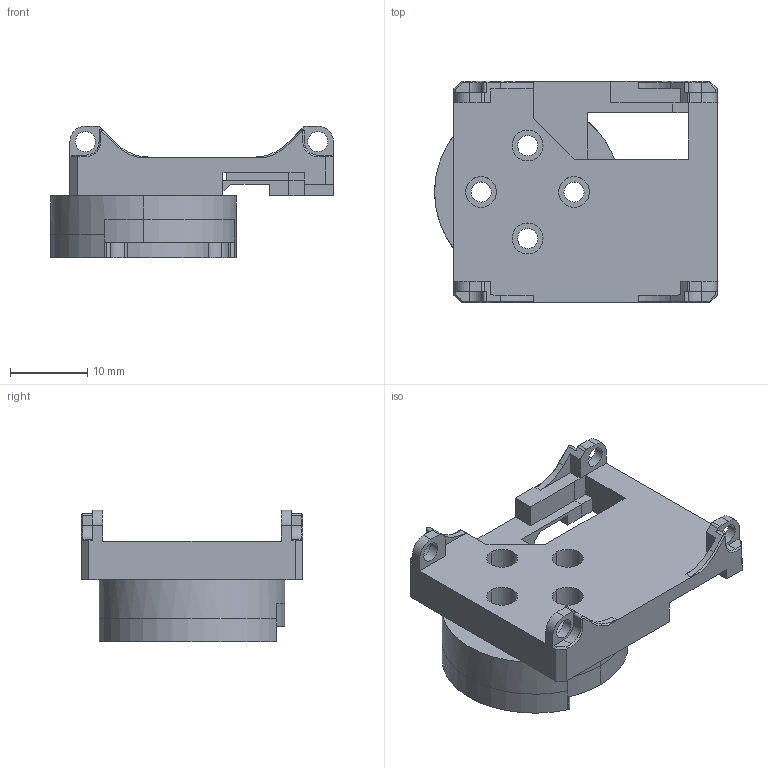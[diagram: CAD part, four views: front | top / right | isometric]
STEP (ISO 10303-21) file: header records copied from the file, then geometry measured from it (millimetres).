
FILE_DESCRIPTION (( 'STEP AP214' ), '1' );
FILE_NAME ('Thumb1.STEP', '2026-09-16T05:42:23', ( '' ), ( '' ), 'SwSTEP 2.0', 'SolidWorks 2024', '' );
FILE_SCHEMA (( 'AUTOMOTIVE_DESIGN' ));
Length unit declared in the file: millimetre
Products named in the file (2): Thumb1; 大拇指旋-走线切多-加厚.step_默认
Assembly tree (1 placements, depth 2):
  Thumb1
    大拇指旋-走线切多-加厚.step_默认
Bounding box: 36.5 x 28.6 x 17 mm (x, y, z)
Volume: 6264.7 mm3; surface area: 4038.8 mm2
Topology: 1 solids, 1 shells, 183 faces, 487 edges, 309 vertices
Faces by surface type: plane 98, cylinder 69, cone 16
Entity records: 5776 total; most frequent: CARTESIAN_POINT 1019, DIRECTION 1009, ORIENTED_EDGE 974, EDGE_CURVE 487, AXIS2_PLACEMENT_3D 339, LINE 331, VECTOR 331, VERTEX_POINT 309
